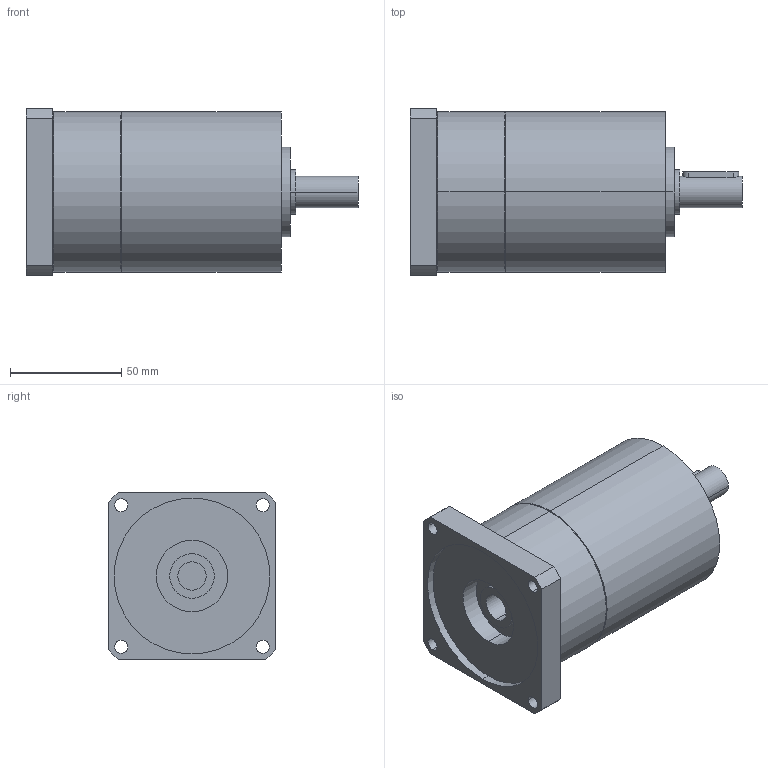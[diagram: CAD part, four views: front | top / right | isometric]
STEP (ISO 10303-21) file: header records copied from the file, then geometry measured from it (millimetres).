
FILE_DESCRIPTION(('CoCreate Modeling STEP Export'),'2;1');
FILE_NAME('GPT75_ig-9-12-16-20-25-28-35-40-50-70-100_14_B14T_12.7_P24.stp','2014-08-27T13:15:45',(''),(''),'CoCreate Modeling STEP processor for AP214 (Solid Model)','CoCreate Modeling 16.00C 25-Feb-2009 (C) Parametric Technology GmbH','');
FILE_SCHEMA(('AUTOMOTIVE_DESIGN { 1 0 10303 214 1 1 1 1 }'));
Length unit declared in the file: millimetre
Products named in the file (2): GPT75_ig-9-12-16-20-25-28-35-40-50-70-100_14_B14T_12.7_P24
Assembly tree (1 placements, depth 2):
  GPT75_ig-9-12-16-20-25-28-35-40-50-70-100_14_B14T_12.7_P24
    GPT75_ig-9-12-16-20-25-28-35-40-50-70-100_14_B14T_12.7_P24
Bounding box: 149 x 75 x 75 mm (x, y, z)
Volume: 469151.8 mm3; surface area: 44774.6 mm2
Topology: 1 solids, 1 shells, 69 faces, 163 edges, 110 vertices
Faces by surface type: cylinder 42, plane 23, cone 4
Entity records: 2146 total; most frequent: CARTESIAN_POINT 661, ORIENTED_EDGE 326, DIRECTION 262, EDGE_CURVE 163, VERTEX_POINT 110, AXIS2_PLACEMENT_3D 99, EDGE_LOOP 91, FACE_OUTER_BOUND 69
